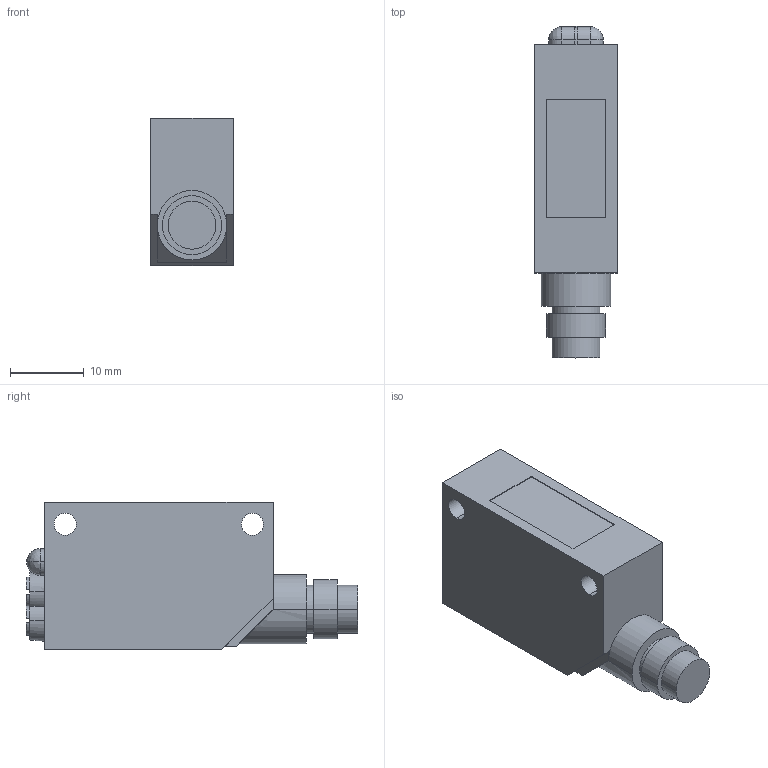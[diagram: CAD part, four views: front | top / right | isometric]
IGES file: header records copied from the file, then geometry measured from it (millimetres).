
Start section: SolidWorks IGES FILE using analytic representation for surfaces
Global section: file name: \\Intra-srv04\開発データ\CAD_Data\CAD委員会\3D電子ｶﾀﾛｸﾞ\製品カタログ（新）\0_IGES\CX-491-Z.IGS,41HSolidWorks 2004; native system: by SolidWorks Corporation; preprocessor: Version 5.3; author: yk0651; date: 050905.114328; units: millimetre
Bounding box: 11.2 x 45 x 20 mm (x, y, z)
Volume: 7386.7 mm3; surface area: 2942.7 mm2
Topology: 1 solids, 1 shells, 72 faces, 178 edges, 112 vertices
Faces by surface type: revolution 37, plane 35
